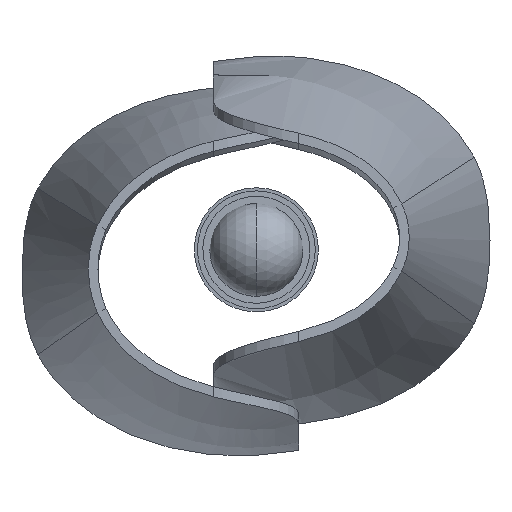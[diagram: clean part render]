
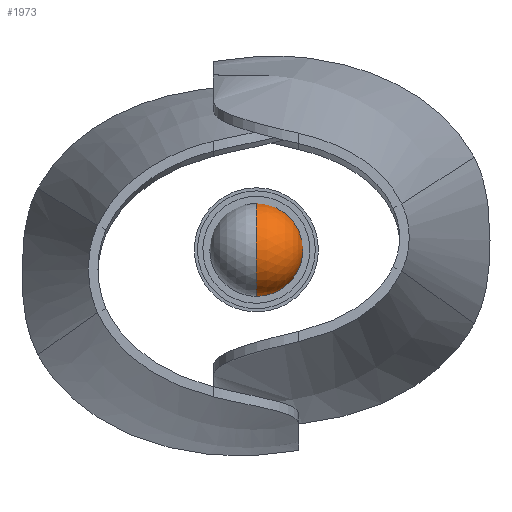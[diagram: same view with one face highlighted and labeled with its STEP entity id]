
A CAD part, front view. The second image highlights one B-rep face of the part: STEP entity #1973.
In plain terms, the highlighted spherical face has radius 30 mm.
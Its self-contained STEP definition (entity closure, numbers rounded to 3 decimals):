
#457 = CIRCLE ( 'NONE', #10337, 30. ) ;
#1102 = CARTESIAN_POINT ( 'NONE',  ( -116.485, -2081.175, 44.149 ) ) ;
#1955 = SPHERICAL_SURFACE ( 'NONE', #15549, 30. ) ;
#1973 = ADVANCED_FACE ( 'NONE', ( #13985 ), #1955, .T. ) ;
#2585 = CARTESIAN_POINT ( 'NONE',  ( -116.485, -2063.175, 20.149 ) ) ;
#2604 = DIRECTION ( 'NONE',  ( 0., 0., 1. ) ) ;
#3420 = AXIS2_PLACEMENT_3D ( 'NONE', #1102, #22188, #2604 ) ;
#4239 = DIRECTION ( 'NONE',  ( 0., 0., -1. ) ) ;
#5234 = VERTEX_POINT ( 'NONE', #21814 ) ;
#5361 = EDGE_CURVE ( 'NONE', #20088, #5234, #9493, .T. ) ;
#5502 = DIRECTION ( 'NONE',  ( 0., 0., -1. ) ) ;
#5649 = CARTESIAN_POINT ( 'NONE',  ( -116.485, -2081.175, 44.149 ) ) ;
#7413 = ORIENTED_EDGE ( 'NONE', *, *, #17310, .F. ) ;
#8050 = VERTEX_POINT ( 'NONE', #15302 ) ;
#9220 = DIRECTION ( 'NONE',  ( 1., 0., 0. ) ) ;
#9423 = AXIS2_PLACEMENT_3D ( 'NONE', #18041, #11904, #4239 ) ;
#9493 = CIRCLE ( 'NONE', #9423, 24. ) ;
#10337 = AXIS2_PLACEMENT_3D ( 'NONE', #5649, #15417, #13311 ) ;
#11904 = DIRECTION ( 'NONE',  ( 0., -1., 0. ) ) ;
#13311 = DIRECTION ( 'NONE',  ( 0., 0., -1. ) ) ;
#13985 = FACE_OUTER_BOUND ( 'NONE', #15852, .T. ) ;
#14940 = CARTESIAN_POINT ( 'NONE',  ( -116.485, -2081.175, 44.149 ) ) ;
#15302 = CARTESIAN_POINT ( 'NONE',  ( -116.485, -2111.175, 44.149 ) ) ;
#15417 = DIRECTION ( 'NONE',  ( 1., 0., 0. ) ) ;
#15549 = AXIS2_PLACEMENT_3D ( 'NONE', #14940, #9220, #5502 ) ;
#15852 = EDGE_LOOP ( 'NONE', ( #22804, #22876, #7413 ) ) ;
#17310 = EDGE_CURVE ( 'NONE', #20088, #8050, #22105, .T. ) ;
#18041 = CARTESIAN_POINT ( 'NONE',  ( -116.485, -2063.175, 44.149 ) ) ;
#19088 = EDGE_CURVE ( 'NONE', #5234, #8050, #457, .T. ) ;
#20088 = VERTEX_POINT ( 'NONE', #2585 ) ;
#21814 = CARTESIAN_POINT ( 'NONE',  ( -116.485, -2063.175, 68.149 ) ) ;
#22105 = CIRCLE ( 'NONE', #3420, 30. ) ;
#22188 = DIRECTION ( 'NONE',  ( -1., 0., 0. ) ) ;
#22804 = ORIENTED_EDGE ( 'NONE', *, *, #5361, .T. ) ;
#22876 = ORIENTED_EDGE ( 'NONE', *, *, #19088, .T. ) ;
